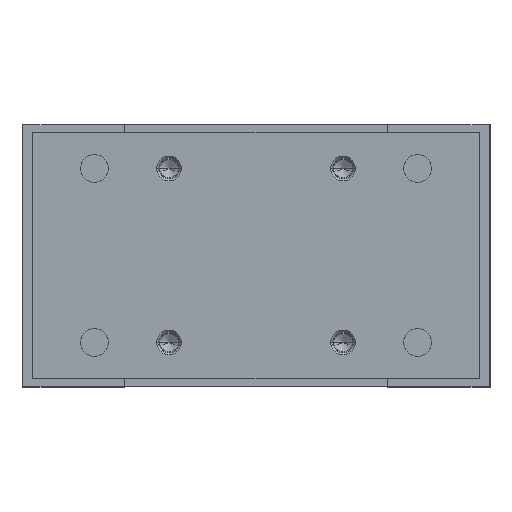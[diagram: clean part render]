
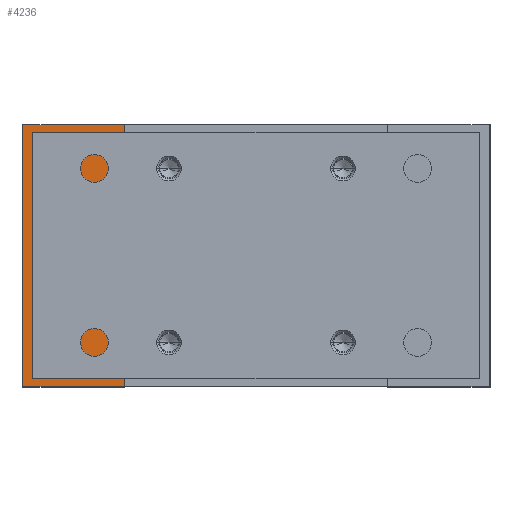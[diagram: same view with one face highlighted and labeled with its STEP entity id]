
A CAD part, top view. The second image highlights one B-rep face of the part: STEP entity #4236.
In plain terms, the highlighted planar face has unit normal (0, 0, 1).
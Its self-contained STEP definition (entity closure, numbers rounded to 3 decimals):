
#42 = ORIENTED_EDGE ( 'NONE', *, *, #1195, .F. ) ;
#401 = FACE_OUTER_BOUND ( 'NONE', #2223, .T. ) ;
#440 = CIRCLE ( 'NONE', #3642, 10. ) ;
#616 = AXIS2_PLACEMENT_3D ( 'NONE', #6199, #6833, #4498 ) ;
#944 = ORIENTED_EDGE ( 'NONE', *, *, #2448, .F. ) ;
#978 = VERTEX_POINT ( 'NONE', #8585 ) ;
#1195 = EDGE_CURVE ( 'NONE', #5957, #9443, #2472, .T. ) ;
#1484 = VECTOR ( 'NONE', #6811, 1000. ) ;
#1515 = VECTOR ( 'NONE', #5982, 1000. ) ;
#1636 = EDGE_CURVE ( 'NONE', #4430, #978, #8599, .T. ) ;
#1807 = CARTESIAN_POINT ( 'NONE',  ( -76., -42.5, 71. ) ) ;
#2081 = CARTESIAN_POINT ( 'NONE',  ( -59.5, 0., 71. ) ) ;
#2211 = DIRECTION ( 'NONE',  ( 0., -1., 0. ) ) ;
#2223 = EDGE_LOOP ( 'NONE', ( #944, #3748, #4205, #8659 ) ) ;
#2310 = CARTESIAN_POINT ( 'NONE',  ( -75.7, 85., 71. ) ) ;
#2448 = EDGE_CURVE ( 'NONE', #5605, #4430, #5929, .T. ) ;
#2472 = CIRCLE ( 'NONE', #616, 10. ) ;
#2628 = CARTESIAN_POINT ( 'NONE',  ( -49.5, 0., 71. ) ) ;
#3113 = EDGE_CURVE ( 'NONE', #9443, #5957, #440, .T. ) ;
#3627 = FACE_BOUND ( 'NONE', #9970, .T. ) ;
#3642 = AXIS2_PLACEMENT_3D ( 'NONE', #2081, #9888, #8359 ) ;
#3734 = ORIENTED_EDGE ( 'NONE', *, *, #3113, .F. ) ;
#3748 = ORIENTED_EDGE ( 'NONE', *, *, #3830, .T. ) ;
#3830 = EDGE_CURVE ( 'NONE', #5605, #7047, #7967, .T. ) ;
#3831 = DIRECTION ( 'NONE',  ( 0., -1., 0. ) ) ;
#3930 = CARTESIAN_POINT ( 'NONE',  ( -75.7, -42.5, 71. ) ) ;
#4205 = ORIENTED_EDGE ( 'NONE', *, *, #8573, .T. ) ;
#4236 = ADVANCED_FACE ( 'NONE', ( #401, #3627 ), #6854, .F. ) ;
#4430 = VERTEX_POINT ( 'NONE', #9794 ) ;
#4498 = DIRECTION ( 'NONE',  ( 1., 0., 0. ) ) ;
#4840 = VECTOR ( 'NONE', #9834, 1000. ) ;
#5274 = DIRECTION ( 'NONE',  ( 0., 0., -1. ) ) ;
#5605 = VERTEX_POINT ( 'NONE', #8531 ) ;
#5929 = LINE ( 'NONE', #9931, #1515 ) ;
#5957 = VERTEX_POINT ( 'NONE', #6416 ) ;
#5982 = DIRECTION ( 'NONE',  ( 1., 0., 0. ) ) ;
#6199 = CARTESIAN_POINT ( 'NONE',  ( -59.5, 0., 71. ) ) ;
#6416 = CARTESIAN_POINT ( 'NONE',  ( -69.5, 0., 71. ) ) ;
#6811 = DIRECTION ( 'NONE',  ( 0., -1., 0. ) ) ;
#6833 = DIRECTION ( 'NONE',  ( 0., 0., 1. ) ) ;
#6835 = LINE ( 'NONE', #1807, #4840 ) ;
#6854 = PLANE ( 'NONE',  #8401 ) ;
#6933 = VECTOR ( 'NONE', #2211, 1000. ) ;
#7047 = VERTEX_POINT ( 'NONE', #3930 ) ;
#7967 = LINE ( 'NONE', #2310, #6933 ) ;
#8359 = DIRECTION ( 'NONE',  ( 1., 0., 0. ) ) ;
#8401 = AXIS2_PLACEMENT_3D ( 'NONE', #10066, #5274, #3831 ) ;
#8531 = CARTESIAN_POINT ( 'NONE',  ( -75.7, 42.5, 71. ) ) ;
#8549 = CARTESIAN_POINT ( 'NONE',  ( -42.75, 42.5, 71. ) ) ;
#8573 = EDGE_CURVE ( 'NONE', #7047, #978, #6835, .T. ) ;
#8585 = CARTESIAN_POINT ( 'NONE',  ( -42.75, -42.5, 71. ) ) ;
#8599 = LINE ( 'NONE', #8549, #1484 ) ;
#8659 = ORIENTED_EDGE ( 'NONE', *, *, #1636, .F. ) ;
#9443 = VERTEX_POINT ( 'NONE', #2628 ) ;
#9794 = CARTESIAN_POINT ( 'NONE',  ( -42.75, 42.5, 71. ) ) ;
#9834 = DIRECTION ( 'NONE',  ( 1., 0., 0. ) ) ;
#9888 = DIRECTION ( 'NONE',  ( 0., 0., 1. ) ) ;
#9931 = CARTESIAN_POINT ( 'NONE',  ( -76., 42.5, 71. ) ) ;
#9970 = EDGE_LOOP ( 'NONE', ( #42, #3734 ) ) ;
#10066 = CARTESIAN_POINT ( 'NONE',  ( -76., 42.5, 71. ) ) ;
